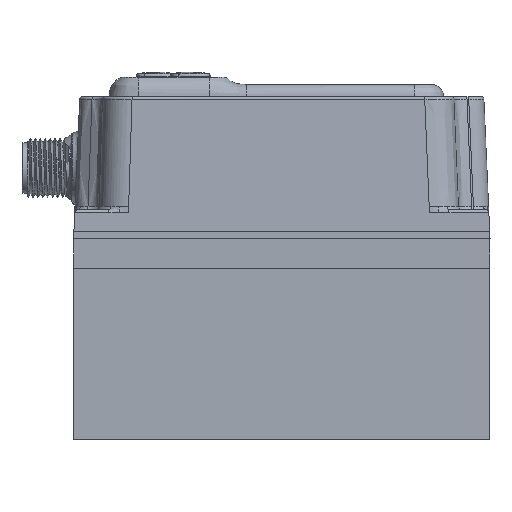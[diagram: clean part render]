
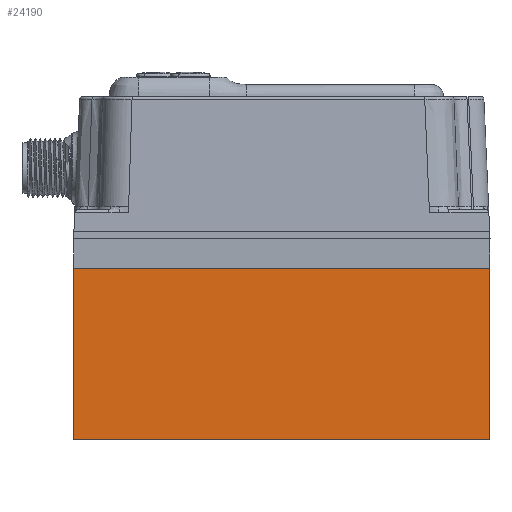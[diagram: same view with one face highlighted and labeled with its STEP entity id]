
A CAD part, front view. The second image highlights one B-rep face of the part: STEP entity #24190.
In plain terms, the highlighted planar face has unit normal (0, -1, 0) as drawn and (-1, 0, 0) by its records, which use the part's own axes.
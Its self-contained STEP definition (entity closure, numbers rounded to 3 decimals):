
#759 = LINE ( 'NONE', #13626, #50164 ) ;
#989 = VERTEX_POINT ( 'NONE', #31245 ) ;
#996 = VERTEX_POINT ( 'NONE', #10820 ) ;
#2809 = CARTESIAN_POINT ( 'NONE',  ( -21.5, 17.5, 85. ) ) ;
#4779 = DIRECTION ( 'NONE',  ( 0., -1., 0. ) ) ;
#5367 = AXIS2_PLACEMENT_3D ( 'NONE', #2809, #15156, #5774 ) ;
#5774 = DIRECTION ( 'NONE',  ( 0., 1., 0. ) ) ;
#9391 = EDGE_CURVE ( 'NONE', #30222, #996, #39776, .T. ) ;
#10820 = CARTESIAN_POINT ( 'NONE',  ( -21.5, 17.5, 0. ) ) ;
#11305 = LINE ( 'NONE', #31732, #19261 ) ;
#13626 = CARTESIAN_POINT ( 'NONE',  ( -21.5, 17.5, 0. ) ) ;
#14718 = VECTOR ( 'NONE', #15856, 1000. ) ;
#15075 = DIRECTION ( 'NONE',  ( 0., 0., -1. ) ) ;
#15156 = DIRECTION ( 'NONE',  ( 1., 0., 0. ) ) ;
#15856 = DIRECTION ( 'NONE',  ( 0., 0., -1. ) ) ;
#17556 = VERTEX_POINT ( 'NONE', #39291 ) ;
#17988 = DIRECTION ( 'NONE',  ( 0., -1., 0. ) ) ;
#18249 = CARTESIAN_POINT ( 'NONE',  ( -21.5, 17.5, 85. ) ) ;
#19261 = VECTOR ( 'NONE', #15075, 1000. ) ;
#19567 = ORIENTED_EDGE ( 'NONE', *, *, #30699, .F. ) ;
#20133 = ORIENTED_EDGE ( 'NONE', *, *, #31476, .T. ) ;
#21807 = CARTESIAN_POINT ( 'NONE',  ( -21.5, 17.5, 85. ) ) ;
#24190 = ADVANCED_FACE ( 'NONE', ( #46905 ), #42875, .F. ) ;
#30222 = VERTEX_POINT ( 'NONE', #21807 ) ;
#30699 = EDGE_CURVE ( 'NONE', #30222, #17556, #43506, .T. ) ;
#31245 = CARTESIAN_POINT ( 'NONE',  ( -21.5, -17.5, 0. ) ) ;
#31476 = EDGE_CURVE ( 'NONE', #996, #989, #759, .T. ) ;
#31732 = CARTESIAN_POINT ( 'NONE',  ( -21.5, -17.5, 85. ) ) ;
#31968 = EDGE_CURVE ( 'NONE', #17556, #989, #11305, .T. ) ;
#38758 = EDGE_LOOP ( 'NONE', ( #20133, #44282, #19567, #51814 ) ) ;
#39291 = CARTESIAN_POINT ( 'NONE',  ( -21.5, -17.5, 85. ) ) ;
#39776 = LINE ( 'NONE', #52698, #14718 ) ;
#42875 = PLANE ( 'NONE',  #5367 ) ;
#43506 = LINE ( 'NONE', #18249, #49156 ) ;
#44282 = ORIENTED_EDGE ( 'NONE', *, *, #31968, .F. ) ;
#46905 = FACE_OUTER_BOUND ( 'NONE', #38758, .T. ) ;
#49156 = VECTOR ( 'NONE', #17988, 1000. ) ;
#50164 = VECTOR ( 'NONE', #4779, 1000. ) ;
#51814 = ORIENTED_EDGE ( 'NONE', *, *, #9391, .T. ) ;
#52698 = CARTESIAN_POINT ( 'NONE',  ( -21.5, 17.5, 85. ) ) ;
